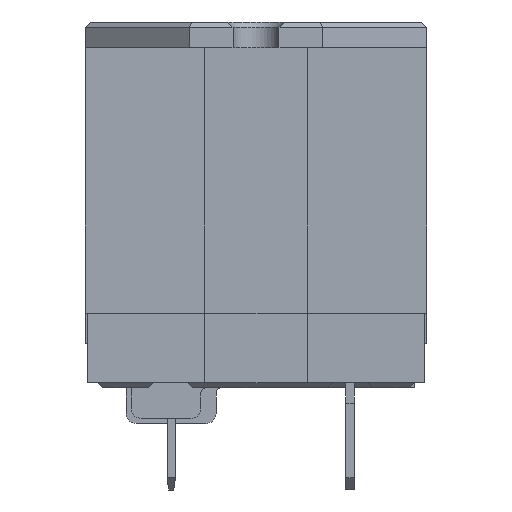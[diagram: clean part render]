
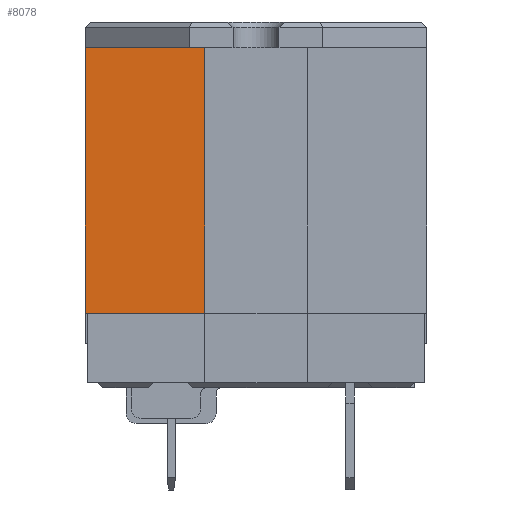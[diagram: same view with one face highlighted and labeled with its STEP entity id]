
A CAD part, left-side view. The second image highlights one B-rep face of the part: STEP entity #8078.
In plain terms, the highlighted planar face has unit normal (-1, 0, 0).
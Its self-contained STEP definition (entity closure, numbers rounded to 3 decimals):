
#281 = CARTESIAN_POINT ( 'NONE',  ( -25.21, 5.352, 32.8 ) ) ;
#348 = CARTESIAN_POINT ( 'NONE',  ( -25.21, 5.352, 32.8 ) ) ;
#476 = LINE ( 'NONE', #8146, #10067 ) ;
#910 = EDGE_CURVE ( 'NONE', #6190, #4462, #3954, .T. ) ;
#1402 = CARTESIAN_POINT ( 'NONE',  ( -25.21, 17.052, 6.8 ) ) ;
#1406 = FACE_OUTER_BOUND ( 'NONE', #6477, .T. ) ;
#1496 = EDGE_CURVE ( 'NONE', #4462, #10794, #6492, .T. ) ;
#1541 = VECTOR ( 'NONE', #11388, 1000. ) ;
#1892 = CARTESIAN_POINT ( 'NONE',  ( -25.21, 17.052, 32.8 ) ) ;
#2068 = CARTESIAN_POINT ( 'NONE',  ( -25.21, -16.348, 32.8 ) ) ;
#2313 = AXIS2_PLACEMENT_3D ( 'NONE', #4228, #5152, #11422 ) ;
#2753 = DIRECTION ( 'NONE',  ( 0., 1., 0. ) ) ;
#3335 = PLANE ( 'NONE',  #2313 ) ;
#3933 = CARTESIAN_POINT ( 'NONE',  ( -25.21, 17.052, 6.8 ) ) ;
#3954 = LINE ( 'NONE', #2068, #1541 ) ;
#4228 = CARTESIAN_POINT ( 'NONE',  ( -25.21, -16.348, 6.8 ) ) ;
#4369 = VECTOR ( 'NONE', #10225, 1000. ) ;
#4373 = CARTESIAN_POINT ( 'NONE',  ( -25.21, 5.352, 6.8 ) ) ;
#4462 = VERTEX_POINT ( 'NONE', #1892 ) ;
#4626 = EDGE_CURVE ( 'NONE', #6190, #10983, #7329, .T. ) ;
#5152 = DIRECTION ( 'NONE',  ( 1., 0., 0. ) ) ;
#5755 = DIRECTION ( 'NONE',  ( 0., 0., -1. ) ) ;
#5816 = VECTOR ( 'NONE', #5755, 1000. ) ;
#6190 = VERTEX_POINT ( 'NONE', #348 ) ;
#6477 = EDGE_LOOP ( 'NONE', ( #9515, #8041, #10433, #8697 ) ) ;
#6492 = LINE ( 'NONE', #3933, #4369 ) ;
#7329 = LINE ( 'NONE', #281, #5816 ) ;
#8041 = ORIENTED_EDGE ( 'NONE', *, *, #4626, .F. ) ;
#8078 = ADVANCED_FACE ( 'NONE', ( #1406 ), #3335, .F. ) ;
#8146 = CARTESIAN_POINT ( 'NONE',  ( -25.21, -16.348, 6.8 ) ) ;
#8697 = ORIENTED_EDGE ( 'NONE', *, *, #1496, .T. ) ;
#8906 = EDGE_CURVE ( 'NONE', #10983, #10794, #476, .T. ) ;
#9515 = ORIENTED_EDGE ( 'NONE', *, *, #8906, .F. ) ;
#10067 = VECTOR ( 'NONE', #2753, 1000. ) ;
#10225 = DIRECTION ( 'NONE',  ( 0., 0., -1. ) ) ;
#10433 = ORIENTED_EDGE ( 'NONE', *, *, #910, .T. ) ;
#10794 = VERTEX_POINT ( 'NONE', #1402 ) ;
#10983 = VERTEX_POINT ( 'NONE', #4373 ) ;
#11388 = DIRECTION ( 'NONE',  ( 0., 1., 0. ) ) ;
#11422 = DIRECTION ( 'NONE',  ( 0., 0., 1. ) ) ;
